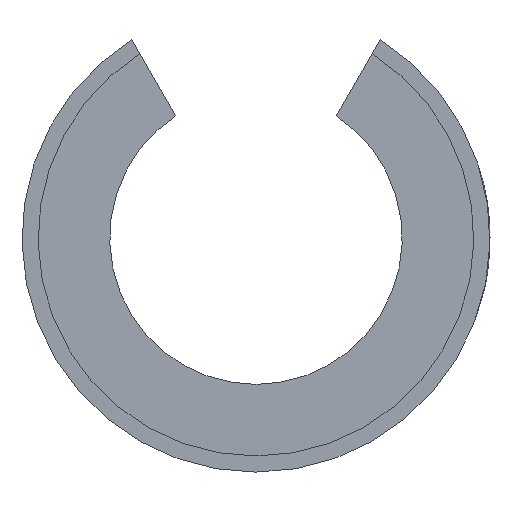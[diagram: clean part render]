
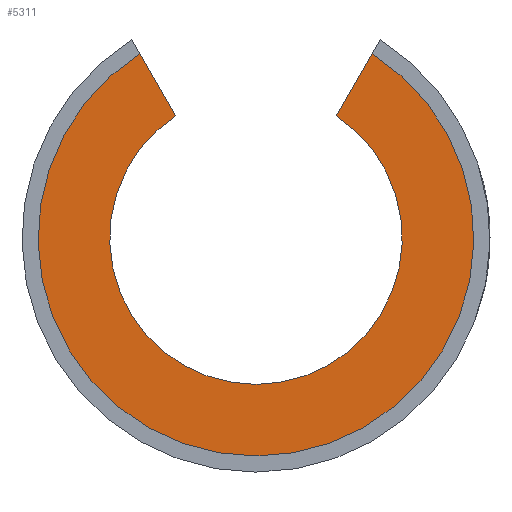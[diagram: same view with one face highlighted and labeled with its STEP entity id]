
A CAD part, left-side view. The second image highlights one B-rep face of the part: STEP entity #5311.
In plain terms, the highlighted planar face has unit normal (-1, 0, 0).
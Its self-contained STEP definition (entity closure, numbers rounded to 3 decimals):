
#122=PLANE('',#5727);
#396=LINE('',#8359,#849);
#397=LINE('',#8363,#850);
#849=VECTOR('',#6323,1000.);
#850=VECTOR('',#6326,1000.);
#1258=CIRCLE('',#5702,10.);
#1271=CIRCLE('',#5728,14.894);
#1636=ORIENTED_EDGE('',*,*,#3191,.T.);
#1637=ORIENTED_EDGE('',*,*,#3229,.T.);
#1638=ORIENTED_EDGE('',*,*,#3230,.F.);
#1639=ORIENTED_EDGE('',*,*,#3231,.T.);
#3191=EDGE_CURVE('',#3995,#3994,#1258,.F.);
#3229=EDGE_CURVE('',#3994,#4019,#396,.T.);
#3230=EDGE_CURVE('',#4020,#4019,#1271,.T.);
#3231=EDGE_CURVE('',#4020,#3995,#397,.T.);
#3994=VERTEX_POINT('',#8283);
#3995=VERTEX_POINT('',#8285);
#4019=VERTEX_POINT('',#8360);
#4020=VERTEX_POINT('',#8362);
#4540=EDGE_LOOP('',(#1636,#1637,#1638,#1639));
#4916=FACE_BOUND('',#4540,.T.);
#5311=ADVANCED_FACE('',(#4916),#122,.T.);
#5702=AXIS2_PLACEMENT_3D('',#8284,#6246,#6247);
#5727=AXIS2_PLACEMENT_3D('',#8358,#6321,#6322);
#5728=AXIS2_PLACEMENT_3D('',#8361,#6324,#6325);
#6246=DIRECTION('',(-1.,0.,0.));
#6247=DIRECTION('',(0.,0.,1.));
#6321=DIRECTION('',(-1.,0.,0.));
#6322=DIRECTION('',(0.,0.,-1.));
#6323=DIRECTION('',(0.,0.5,0.866));
#6324=DIRECTION('',(1.,0.,0.));
#6325=DIRECTION('',(0.,0.,-1.));
#6326=DIRECTION('',(0.,0.5,-0.866));
#8283=CARTESIAN_POINT('',(-19.8,5.5,8.352));
#8284=CARTESIAN_POINT('',(-19.8,0.,0.));
#8285=CARTESIAN_POINT('',(-19.8,-5.5,8.352));
#8358=CARTESIAN_POINT('',(-19.8,0.,0.));
#8359=CARTESIAN_POINT('',(-19.8,5.5,8.352));
#8360=CARTESIAN_POINT('',(-19.8,7.95,12.595));
#8361=CARTESIAN_POINT('',(-19.8,0.,0.));
#8362=CARTESIAN_POINT('',(-19.8,-7.95,12.595));
#8363=CARTESIAN_POINT('',(-19.8,-5.5,8.352));
